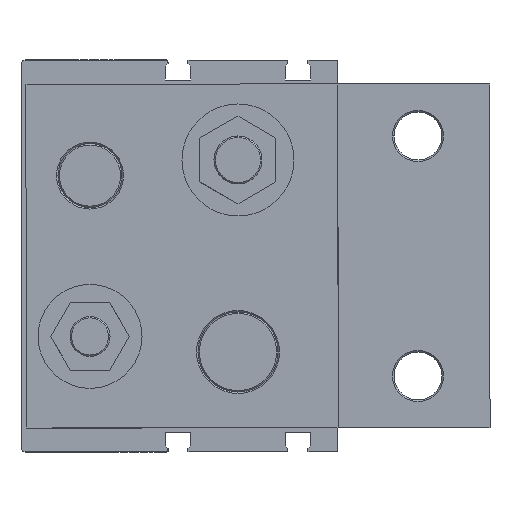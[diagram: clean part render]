
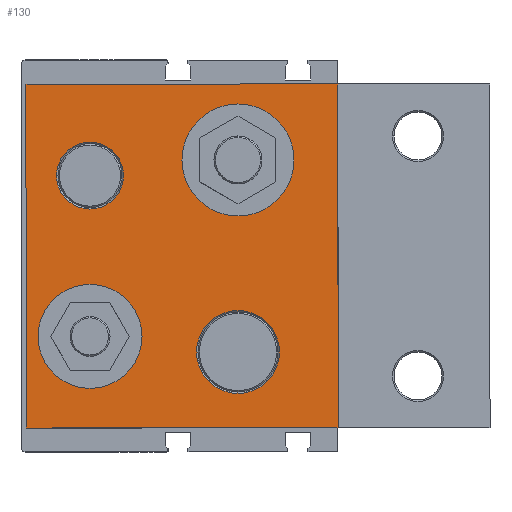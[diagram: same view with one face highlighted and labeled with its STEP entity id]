
A CAD part, left-side view. The second image highlights one B-rep face of the part: STEP entity #130.
In plain terms, the highlighted planar face has unit normal (-1, 0, 0) as drawn and (1, 0, 0) by its records, which use the part's own axes.
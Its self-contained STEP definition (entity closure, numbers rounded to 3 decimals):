
#82 = CARTESIAN_POINT ( 'NONE',  ( 28., -3., 20.1 ) ) ;
#130 = ADVANCED_FACE ( 'NONE', ( #6254, #1623, #6441, #3170, #3353 ), #3191, .F. ) ;
#191 = LINE ( 'NONE', #5430, #4641 ) ;
#199 = ORIENTED_EDGE ( 'NONE', *, *, #2434, .F. ) ;
#221 = CARTESIAN_POINT ( 'NONE',  ( 28., -78., -43. ) ) ;
#245 = DIRECTION ( 'NONE',  ( 0., -1., 0. ) ) ;
#261 = DIRECTION ( 'NONE',  ( 0., 1., 0. ) ) ;
#307 = CARTESIAN_POINT ( 'NONE',  ( 28., -78., 43. ) ) ;
#312 = DIRECTION ( 'NONE',  ( 0., 1., 0. ) ) ;
#481 = CARTESIAN_POINT ( 'NONE',  ( 28., -16., -20.1 ) ) ;
#488 = EDGE_LOOP ( 'NONE', ( #5112, #4145 ) ) ;
#626 = CARTESIAN_POINT ( 'NONE',  ( 28., -29., 20.1 ) ) ;
#793 = AXIS2_PLACEMENT_3D ( 'NONE', #3008, #7053, #3594 ) ;
#801 = LINE ( 'NONE', #1665, #5819 ) ;
#877 = AXIS2_PLACEMENT_3D ( 'NONE', #481, #4525, #1054 ) ;
#916 = CIRCLE ( 'NONE', #5734, 14. ) ;
#930 = ORIENTED_EDGE ( 'NONE', *, *, #7350, .F. ) ;
#945 = VECTOR ( 'NONE', #7368, 1000. ) ;
#977 = VERTEX_POINT ( 'NONE', #82 ) ;
#1019 = AXIS2_PLACEMENT_3D ( 'NONE', #7239, #3784, #312 ) ;
#1054 = DIRECTION ( 'NONE',  ( 0., 1., 0. ) ) ;
#1161 = AXIS2_PLACEMENT_3D ( 'NONE', #2891, #6938, #3484 ) ;
#1440 = DIRECTION ( 'NONE',  ( -1., 0., 0. ) ) ;
#1497 = CARTESIAN_POINT ( 'NONE',  ( 28., -78., 43. ) ) ;
#1583 = CARTESIAN_POINT ( 'NONE',  ( 28., -53., 24. ) ) ;
#1623 = FACE_BOUND ( 'NONE', #2714, .T. ) ;
#1665 = CARTESIAN_POINT ( 'NONE',  ( 28., 0., 43. ) ) ;
#2014 = VERTEX_POINT ( 'NONE', #3867 ) ;
#2168 = DIRECTION ( 'NONE',  ( 0., 1., 0. ) ) ;
#2317 = DIRECTION ( 'NONE',  ( 1., 0., 0. ) ) ;
#2388 = CARTESIAN_POINT ( 'NONE',  ( 28., -78., 43. ) ) ;
#2415 = VERTEX_POINT ( 'NONE', #6004 ) ;
#2434 = EDGE_CURVE ( 'NONE', #2415, #2014, #916, .T. ) ;
#2447 = CARTESIAN_POINT ( 'NONE',  ( 28., 0., -43. ) ) ;
#2714 = EDGE_LOOP ( 'NONE', ( #5542, #5701 ) ) ;
#2810 = EDGE_CURVE ( 'NONE', #4708, #3166, #6636, .T. ) ;
#2891 = CARTESIAN_POINT ( 'NONE',  ( 28., -16., 20.1 ) ) ;
#3008 = CARTESIAN_POINT ( 'NONE',  ( 28., -53., 24. ) ) ;
#3143 = ORIENTED_EDGE ( 'NONE', *, *, #7439, .F. ) ;
#3166 = VERTEX_POINT ( 'NONE', #4598 ) ;
#3170 = FACE_BOUND ( 'NONE', #488, .T. ) ;
#3191 = PLANE ( 'NONE',  #3911 ) ;
#3250 = ORIENTED_EDGE ( 'NONE', *, *, #4517, .T. ) ;
#3353 = FACE_BOUND ( 'NONE', #7422, .T. ) ;
#3465 = LINE ( 'NONE', #2388, #6368 ) ;
#3478 = DIRECTION ( 'NONE',  ( 1., 0., 0. ) ) ;
#3484 = DIRECTION ( 'NONE',  ( 0., 1., 0. ) ) ;
#3557 = AXIS2_PLACEMENT_3D ( 'NONE', #1583, #5622, #2168 ) ;
#3594 = DIRECTION ( 'NONE',  ( 0., 1., 0. ) ) ;
#3627 = ORIENTED_EDGE ( 'NONE', *, *, #4131, .T. ) ;
#3647 = EDGE_LOOP ( 'NONE', ( #3627, #3250, #4405, #4952 ) ) ;
#3681 = VERTEX_POINT ( 'NONE', #4072 ) ;
#3703 = VERTEX_POINT ( 'NONE', #6968 ) ;
#3738 = DIRECTION ( 'NONE',  ( 1., 0., 0. ) ) ;
#3784 = DIRECTION ( 'NONE',  ( 1., 0., 0. ) ) ;
#3867 = CARTESIAN_POINT ( 'NONE',  ( 28., -67., -24. ) ) ;
#3890 = CARTESIAN_POINT ( 'NONE',  ( 28., 0., -43. ) ) ;
#3893 = VERTEX_POINT ( 'NONE', #221 ) ;
#3911 = AXIS2_PLACEMENT_3D ( 'NONE', #307, #1440, #4911 ) ;
#4024 = CARTESIAN_POINT ( 'NONE',  ( 28., 0., 43. ) ) ;
#4072 = CARTESIAN_POINT ( 'NONE',  ( 28., -7.625, -20.1 ) ) ;
#4131 = EDGE_CURVE ( 'NONE', #5178, #6955, #801, .T. ) ;
#4145 = ORIENTED_EDGE ( 'NONE', *, *, #4737, .F. ) ;
#4261 = EDGE_CURVE ( 'NONE', #6037, #977, #4732, .T. ) ;
#4370 = AXIS2_PLACEMENT_3D ( 'NONE', #5780, #2317, #6390 ) ;
#4405 = ORIENTED_EDGE ( 'NONE', *, *, #4875, .T. ) ;
#4479 = CIRCLE ( 'NONE', #1161, 13. ) ;
#4517 = EDGE_CURVE ( 'NONE', #6955, #7199, #191, .T. ) ;
#4525 = DIRECTION ( 'NONE',  ( 1., 0., 0. ) ) ;
#4598 = CARTESIAN_POINT ( 'NONE',  ( 28., -63.375, 24. ) ) ;
#4641 = VECTOR ( 'NONE', #245, 1000. ) ;
#4708 = VERTEX_POINT ( 'NONE', #6755 ) ;
#4732 = CIRCLE ( 'NONE', #6558, 13. ) ;
#4737 = EDGE_CURVE ( 'NONE', #3166, #4708, #7445, .T. ) ;
#4875 = EDGE_CURVE ( 'NONE', #7199, #3893, #3465, .T. ) ;
#4911 = DIRECTION ( 'NONE',  ( 0., 0., 1. ) ) ;
#4940 = CIRCLE ( 'NONE', #1019, 14. ) ;
#4952 = ORIENTED_EDGE ( 'NONE', *, *, #7294, .F. ) ;
#5112 = ORIENTED_EDGE ( 'NONE', *, *, #2810, .F. ) ;
#5178 = VERTEX_POINT ( 'NONE', #2447 ) ;
#5430 = CARTESIAN_POINT ( 'NONE',  ( 28., 0., 43. ) ) ;
#5542 = ORIENTED_EDGE ( 'NONE', *, *, #6961, .F. ) ;
#5622 = DIRECTION ( 'NONE',  ( 1., 0., 0. ) ) ;
#5701 = ORIENTED_EDGE ( 'NONE', *, *, #4261, .F. ) ;
#5734 = AXIS2_PLACEMENT_3D ( 'NONE', #7200, #3738, #261 ) ;
#5735 = DIRECTION ( 'NONE',  ( 0., 0., 1. ) ) ;
#5780 = CARTESIAN_POINT ( 'NONE',  ( 28., -16., -20.1 ) ) ;
#5819 = VECTOR ( 'NONE', #5735, 1000. ) ;
#6004 = CARTESIAN_POINT ( 'NONE',  ( 28., -39., -24. ) ) ;
#6037 = VERTEX_POINT ( 'NONE', #626 ) ;
#6254 = FACE_OUTER_BOUND ( 'NONE', #3647, .T. ) ;
#6368 = VECTOR ( 'NONE', #6796, 1000. ) ;
#6390 = DIRECTION ( 'NONE',  ( 0., 1., 0. ) ) ;
#6441 = FACE_BOUND ( 'NONE', #6602, .T. ) ;
#6558 = AXIS2_PLACEMENT_3D ( 'NONE', #6933, #3478, #7520 ) ;
#6602 = EDGE_LOOP ( 'NONE', ( #199, #7323 ) ) ;
#6636 = CIRCLE ( 'NONE', #793, 10.375 ) ;
#6752 = CIRCLE ( 'NONE', #4370, 8.375 ) ;
#6755 = CARTESIAN_POINT ( 'NONE',  ( 28., -42.625, 24. ) ) ;
#6796 = DIRECTION ( 'NONE',  ( 0., 0., -1. ) ) ;
#6933 = CARTESIAN_POINT ( 'NONE',  ( 28., -16., 20.1 ) ) ;
#6938 = DIRECTION ( 'NONE',  ( 1., 0., 0. ) ) ;
#6955 = VERTEX_POINT ( 'NONE', #4024 ) ;
#6961 = EDGE_CURVE ( 'NONE', #977, #6037, #4479, .T. ) ;
#6968 = CARTESIAN_POINT ( 'NONE',  ( 28., -24.375, -20.1 ) ) ;
#7053 = DIRECTION ( 'NONE',  ( 1., 0., 0. ) ) ;
#7101 = LINE ( 'NONE', #3890, #945 ) ;
#7144 = EDGE_CURVE ( 'NONE', #2014, #2415, #4940, .T. ) ;
#7199 = VERTEX_POINT ( 'NONE', #1497 ) ;
#7200 = CARTESIAN_POINT ( 'NONE',  ( 28., -53., -24. ) ) ;
#7239 = CARTESIAN_POINT ( 'NONE',  ( 28., -53., -24. ) ) ;
#7290 = CIRCLE ( 'NONE', #877, 8.375 ) ;
#7294 = EDGE_CURVE ( 'NONE', #5178, #3893, #7101, .T. ) ;
#7323 = ORIENTED_EDGE ( 'NONE', *, *, #7144, .F. ) ;
#7350 = EDGE_CURVE ( 'NONE', #3681, #3703, #7290, .T. ) ;
#7368 = DIRECTION ( 'NONE',  ( 0., -1., 0. ) ) ;
#7422 = EDGE_LOOP ( 'NONE', ( #930, #3143 ) ) ;
#7439 = EDGE_CURVE ( 'NONE', #3703, #3681, #6752, .T. ) ;
#7445 = CIRCLE ( 'NONE', #3557, 10.375 ) ;
#7520 = DIRECTION ( 'NONE',  ( 0., 1., 0. ) ) ;
